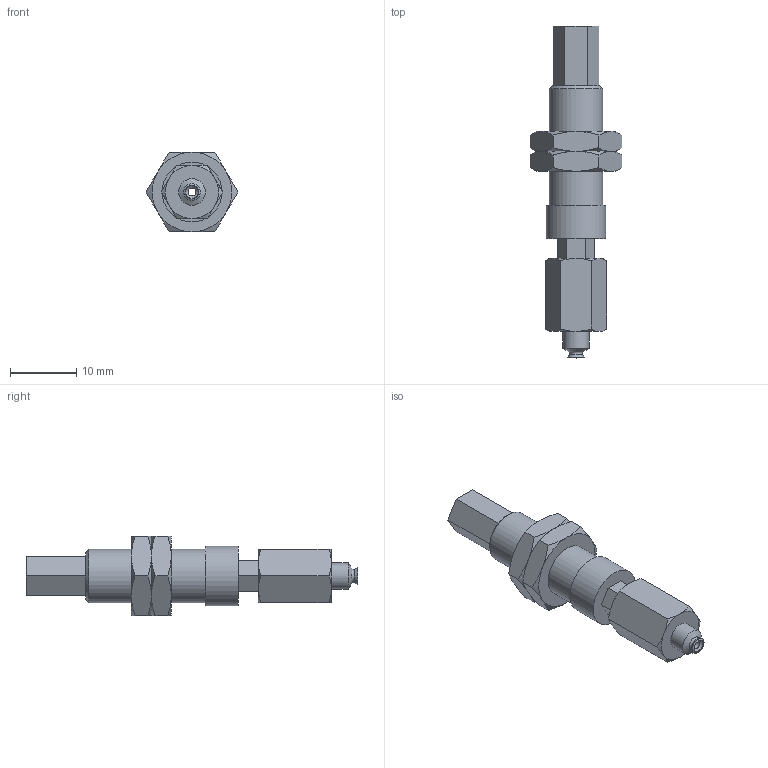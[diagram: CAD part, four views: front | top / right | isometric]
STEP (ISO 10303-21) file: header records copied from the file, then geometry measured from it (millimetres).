
FILE_DESCRIPTION(('STEP AP203'),'1');
FILE_NAME('.stp','2025-08-27T02:33:15',(' '),(' '),'Spatial InterOp 3D',' ',' ');
FILE_SCHEMA(('CONFIG_CONTROL_DESIGN'));
Length unit declared in the file: millimetre
Products named in the file (6): BNABPFTH-2A-3-※; ADAPTER; NAPFTH-2A-3-MBODY; Nut-2A-3-h; NAPFTH-2A-3-FBODY; BPFG-2A-※
Assembly tree (6 placements, depth 2):
  BNABPFTH-2A-3-※
    ADAPTER
    NAPFTH-2A-3-MBODY
    Nut-2A-3-h  x2
    NAPFTH-2A-3-FBODY
    BPFG-2A-※
Bounding box: 13.86 x 50 x 12 mm (x, y, z)
Volume: 2628.9 mm3; surface area: 3127 mm2
Topology: 6 solids, 6 shells, 121 faces, 260 edges, 157 vertices
Faces by surface type: plane 54, cone 46, cylinder 13, torus 7, bspline 1
Full cylindrical faces by diameter (mm): 1.2 x3, 2 x2, 2.459 x1, 3 x2, 4 x1, 7.188 x2, 8 x1, 9 x1
Entity records: 2967 total; most frequent: CARTESIAN_POINT 720, DIRECTION 400, ORIENTED_EDGE 354, EDGE_CURVE 177, AXIS2_PLACEMENT_3D 167, EDGE_LOOP 142, VERTEX_POINT 123, FACE_OUTER_BOUND 118
